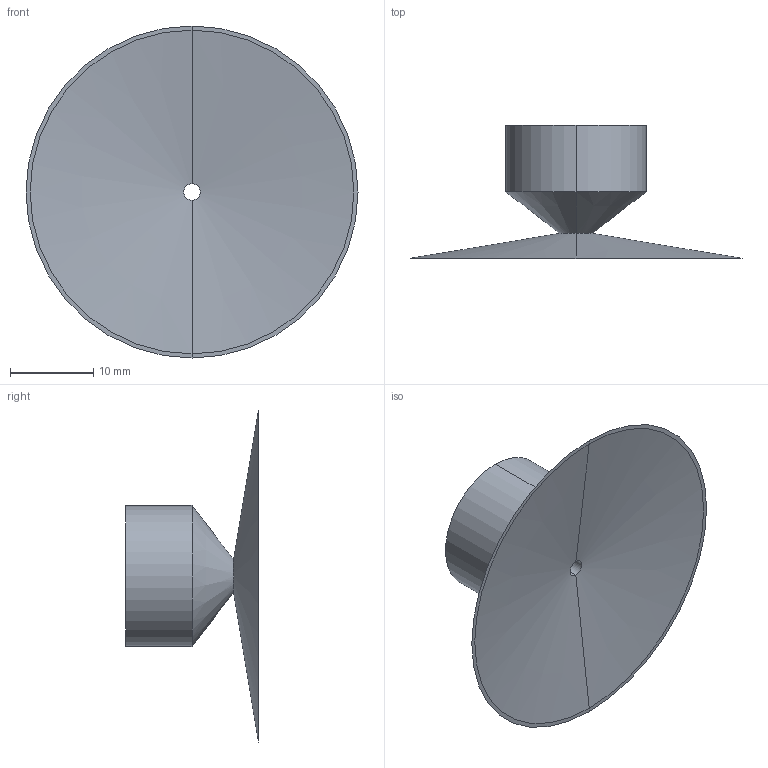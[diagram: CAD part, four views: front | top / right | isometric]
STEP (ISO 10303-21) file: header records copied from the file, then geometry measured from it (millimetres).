
FILE_DESCRIPTION (( 'STEP AP214' ), '1' );
FILE_NAME ('VSH-M40.STEP', '2019-11-30T09:19:11', ( '微软用户' ), ( '微软中国' ), 'SwSTEP 2.0', 'SolidWorks 2016', '' );
FILE_SCHEMA (( 'AUTOMOTIVE_DESIGN' ));
Length unit declared in the file: millimetre
Products named in the file (1): VSH-M40
Bounding box: 40 x 16 x 40 mm (x, y, z)
Volume: 2222.9 mm3; surface area: 3803.2 mm2
Topology: 1 solids, 1 shells, 18 faces, 36 edges, 22 vertices
Faces by surface type: cylinder 8, cone 6, plane 4
Entity records: 512 total; most frequent: DIRECTION 96, CARTESIAN_POINT 77, ORIENTED_EDGE 72, AXIS2_PLACEMENT_3D 41, EDGE_CURVE 36, VERTEX_POINT 22, EDGE_LOOP 22, CIRCLE 22
